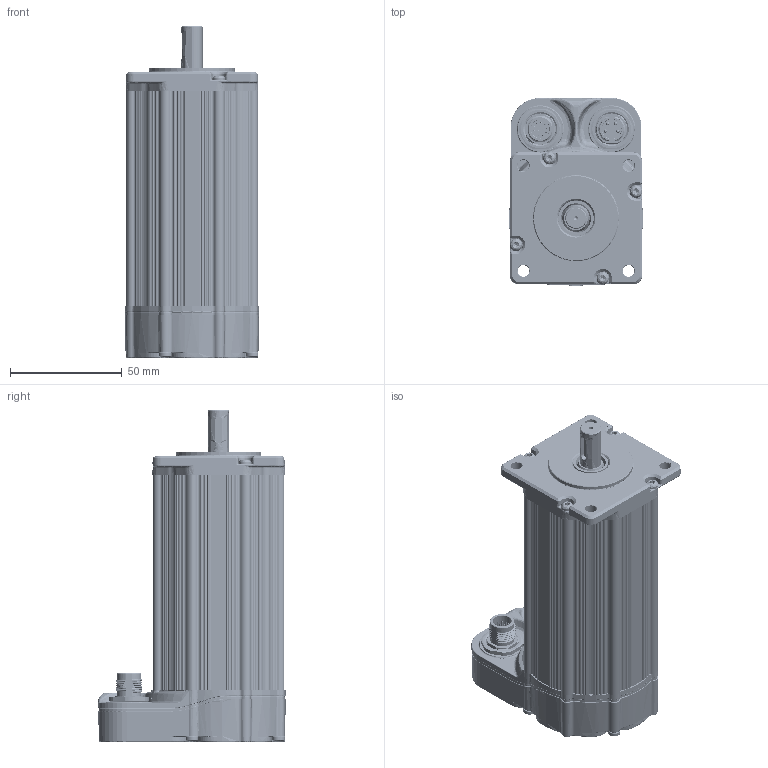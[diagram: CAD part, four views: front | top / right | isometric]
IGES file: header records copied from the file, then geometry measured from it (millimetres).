
Start section: SolidWorks IGES file using analytic representation for surfaces
Global section: file name: C:\TeknicPDM\Ganges\Ganges Customer Files\Ganges Customer Models\Ganges 234x.IGS; native system: SolidWorks 2020; preprocessor: SolidWorks 2020; author: mike_berezny; date: 230807.171952; units: inch
Bounding box: 60.26 x 84.12 x 148.64 mm (x, y, z)
Surface area: 112686.2 mm2 (no closed solid volume)
Topology: 0 solids, 0 shells, 7702 faces, 73648 edges, 73301 vertices
Faces by surface type: bspline 3936, revolution 3766
